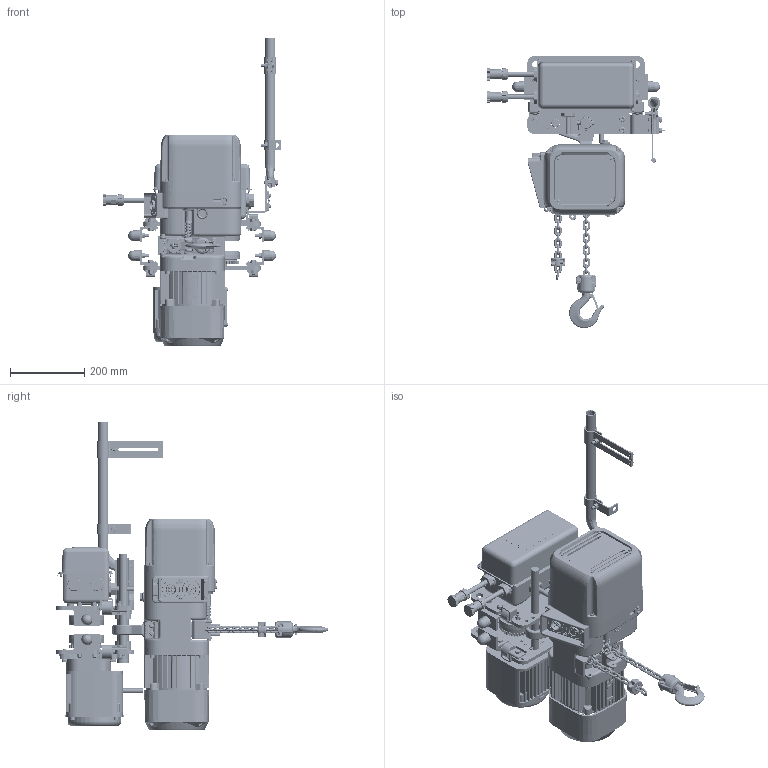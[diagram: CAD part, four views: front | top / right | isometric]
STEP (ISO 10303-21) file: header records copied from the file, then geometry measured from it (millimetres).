
FILE_DESCRIPTION (( 'STEP AP214' ), '1' );
FILE_NAME ('NER2M005SD-SD.STEP', '2026-08-06T19:41:39', ( '' ), ( '' ), 'SwSTEP 2.0', 'SolidWorks 2026', '' );
FILE_SCHEMA (( 'AUTOMOTIVE_DESIGN' ));
Length unit declared in the file: inch
Products named in the file (132): MS551010; MR1DS9492; MS1102010; ER2CS9101; MR1DS9203; J1WS011-20060_Rectangular section spring washer BS 4464 - 16 (Type B); E6F151003; ER2CS2564; single coil rectangular section spring washer_bsi_9012711; ECP6912AA; MS554010; MR1DS1211; M6F554010; M6SE010S9102; 9091275_B18.3.1M - 8 x 1.25 x 35 Hex SHCS -- 35CHX; MR1DS1493; MR1DS9401_1 - 8 TON & 10 L TON; ER2CS9011; 6077801; NER2M005SD-SD; LCER2005NP; ER2CS9357; ECP6914AA; ER2DS9031; MR1DS1491; MS161010; MSF115010_MSF115010; 60704; spring lock washer_2_jis_9012712; ER2CS9186; T6G156020; MR2DI2811; ER2CS1011; MR1DS9501; ER1BS9135; MR1DS9491; ER2CS9511; MS104010; Spring Lock Washer for M4; MR1DS9421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
Assembly tree (330 placements, depth 6):
  NER2M005SD-SD
    MR2005LD_3" FLANGE
      MR1DS5201
        MR1DS9201
        MR1DS9203  x2
        M6FE010S9113
      MR1DS5202
        MR1DS9202
        MR1DS9203  x2
        M6FE010S9114
      MSF115010_MSF115010
      MR1DS9634  x4
      hex cap screw_am_9093329  x16
      single coil rectangular section spring washer_bsi_9012711  x20
      hex nut style 1_am_9093424  x16
      MR1DS9631  x4
      MS006010  x4
      MR1DS1211_Reversed  x2
        MR1DS1211
        MR1DS9218
      MR1DS1211  x2
        MR1DS1211
        MR1DS9218
      MS1101010  x2
        M6SE010S9101
        6302Z BEARING
        basic internal retaining ring_am_9047242
      MS1102010  x2
        M6SE010S9102
        6302Z BEARING
        basic internal retaining ring_am_9047242
      MR1DS9131_MR1DS9131
      9009446_9009446  x2
      MS161010
      T6G156020
      9009432_9009432
      hexagon slotted nut low_1 small_jis_T3P154020
      split pin (metric) as_9009414-5
      9047115_9047115  x4
      MS104010  x4
      9012513  x4
      MR1DS9248
      70131XX_7013101
        MR1DS9411
        MR1DS9401_1 - 8 TON & 10 L TON
        MR1DS9421
        MS554010  x12
        MR2DI2811
          ECP5924AH
          MS527010
          MR2DI1811
          ES558003  x4
        MS517010  x4
        MS551010  x4
        ECP5924AC1
        ECP5924AB1
        ECP5924AD1
        MS527010
        E6F630010S  x2
        60704
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Bounding box: 478.65 x 731.09 x 826.65 mm (x, y, z)
Volume: 20372715.9 mm3; surface area: 3118696.4 mm2
Topology: 370 solids, 386 shells, 14357 faces, 37453 edges, 24212 vertices
Faces by surface type: plane 6539, cylinder 4552, cone 1288, torus 1129, bspline 758, sphere 91
Entity records: 317342 total; most frequent: CARTESIAN_POINT 111021, ORIENTED_EDGE 41898, DIRECTION 40975, EDGE_CURVE 20951, AXIS2_PLACEMENT_3D 15398, VERTEX_POINT 13831, LINE 10179, VECTOR 10179
